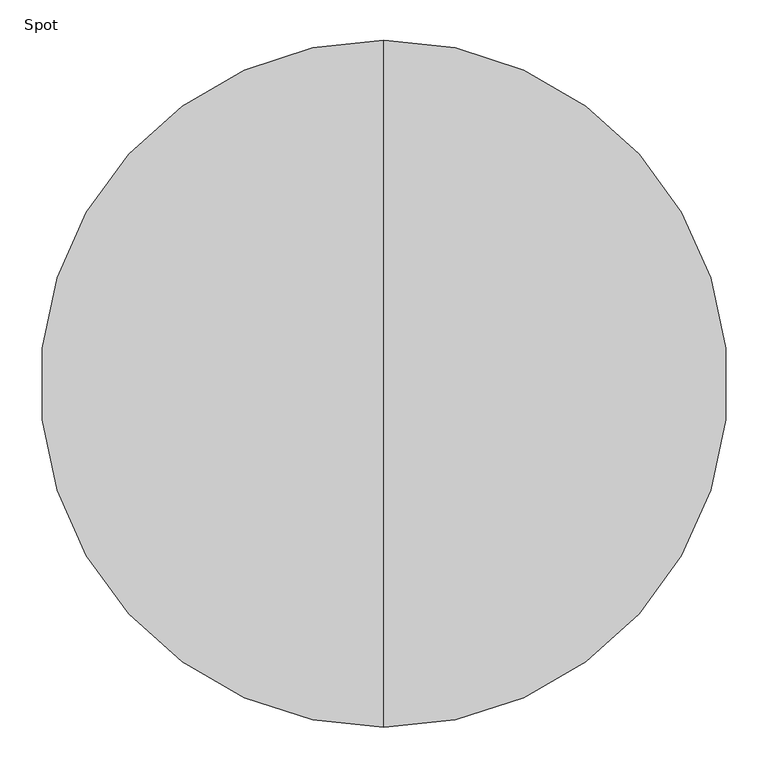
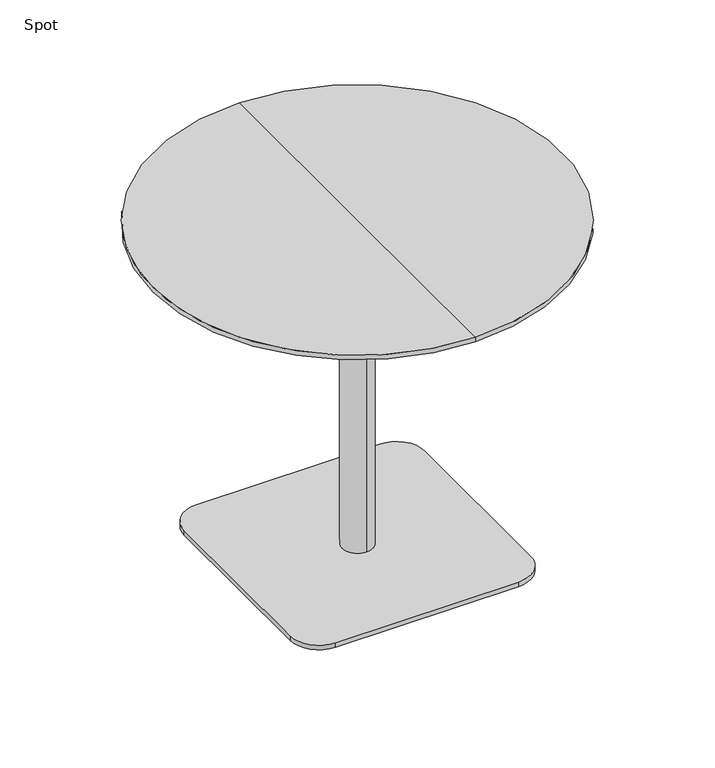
"""IFC4 building model written with IfcOpenShell, lengths in millimetres: furniture geometry, Spot : ø85x72s."""

from ifc_helpers import new_model, si_unit, point, frame, frame_2d, origin, origin_with_axes, place, context, project, spatial, polyline, circle_curve, trimmed, segment, composite_curve, outline, extrude, source, transform, mapped, element, save
from ifc_brep_helpers import plane_surface, cylinder_surface, revolved_surface, advanced_brep


def spot_d553f32d(model_context):
    return source(origin(), model_context, "Body", "SolidModel", [
        advanced_brep(
        [(0.0, -425.0, 720.0), (0.0, 425.0, 720.0), (0.0, 0.0, 720.0), (0.0, 425.0, 710.25), (0.0, -425.0, 710.25), (0.0, 0.0, 698.0), (0.0, -379.2823776, 698.0), (0.0, 379.2823776, 698.0)],
        [
            (0, 1, circle_curve(frame((0.0, 0.0, 720.0), z_axis=(0.0, 0.0, 1.0), x_axis=(0.0, -1.0, 0.0)), 425.0)),
            (1, 2),
            (2, 0),
            (3, 4, circle_curve(frame((0.0, 0.0, 710.25), z_axis=(0.0, 0.0, 1.0), x_axis=(0.0, -1.0, 0.0)), 425.0)),
            (4, 0),
            (0, 1, circle_curve(frame((0.0, 0.0, 720.0), z_axis=(0.0, 0.0, -1.0), x_axis=(0.0, -1.0, 0.0)), 425.0)),
            (1, 3),
            (5, 6),
            (6, 7, circle_curve(frame((0.0, 0.0, 698.0), z_axis=(0.0, 0.0, -1.0), x_axis=(0.0, -1.0, 0.0)), 379.2823776)),
            (7, 5),
            (7, 6, circle_curve(frame((0.0, 0.0, 698.0), z_axis=(0.0, 0.0, -1.0), x_axis=(0.0, -1.0, 0.0)), 379.2823776)),
            (4, 3, circle_curve(frame((0.0, 0.0, 710.25), z_axis=(0.0, 0.0, 1.0), x_axis=(0.0, -1.0, 0.0)), 425.0)),
            (6, 4),
            (3, 7),
        ],
        [
            plane_surface(frame((0.0, 0.0, 720.0), z_axis=(0.0, 0.0, 1.0), x_axis=(0.0, -1.0, 0.0))),
            cylinder_surface(frame((0.0, 0.0, 800.0), z_axis=(0.0, 0.0, -1.0), x_axis=(0.0, -1.0, 0.0)), 425.0),
            plane_surface(frame((0.0, 0.0, 698.0), z_axis=(0.0, 0.0, -1.0), x_axis=(0.0, -1.0, 0.0))),
            revolved_surface(polyline([(0.0, -425.0, 710.25), (0.0, -379.2823776, 698.0)]), (0.0, 0.0, 800.0), (0.0, 0.0, -1.0)),
        ],
        [
            (0, [[1, 2, 3]]),
            (1, [[4, 5, 6, 7]]),
            (2, [[8, 9, 10]]),
            (2, [[-10, 11, -8]]),
            (0, [[-6, -3, -2]]),
            (1, [[12, -7, -1, -5]]),
            (3, [[-9, 13, -4, 14]]),
            (3, [[-11, -14, -12, -13]]),
        ],
    ),
        extrude(outline(composite_curve([segment(trimmed(circle_curve(frame_2d((190.0, 190.0)), 60.0), [point((190.0, 250.0))], [point((250.0, 190.0))], False, "CARTESIAN"), True, "CONTINUOUS"), segment(polyline([(250.0, 190.0), (250.0, -190.0)]), True, "CONTINUOUS"), segment(trimmed(circle_curve(frame_2d((190.0, -190.0)), 60.0), [point((250.0, -190.0))], [point((190.0, -250.0))], False, "CARTESIAN"), True, "CONTINUOUS"), segment(polyline([(190.0, -250.0), (-190.0, -250.0)]), True, "CONTINUOUS"), segment(trimmed(circle_curve(frame_2d((-190.0, -190.0)), 60.0), [point((-190.0, -250.0))], [point((-250.0, -190.0))], False, "CARTESIAN"), True, "CONTINUOUS"), segment(polyline([(-250.0, -190.0), (-250.0, 190.0)]), True, "CONTINUOUS"), segment(trimmed(circle_curve(frame_2d((-190.0, 190.0)), 60.0), [point((-250.0, 190.0))], [point((-190.0, 250.0))], False, "CARTESIAN"), True, "CONTINUOUS"), segment(polyline([(-190.0, 250.0), (190.0, 250.0)]), True, "CONTINUOUS")], self_intersect=False)), origin_with_axes(), (0.0, 0.0, 1.0), 10.0),
        advanced_brep(
        [(0.0, 32.0, 10.0), (0.0, -32.0, 10.0), (0.0, -32.0, 667.406916), (0.0, 32.0, 667.406916), (0.0, 0.0, 10.0), (0.0, 150.0, 698.0), (0.0, -150.0, 698.0), (0.0, 0.0, 698.0), (0.0, 150.0, 686.7213673), (0.0, -150.0, 686.7213673)],
        [
            (0, 1, circle_curve(frame((0.0, 0.0, 10.0), z_axis=(0.0, 0.0, 1.0), x_axis=(0.0, -1.0, 0.0)), 32.0)),
            (1, 2),
            (2, 3, circle_curve(frame((0.0, 0.0, 667.406916), z_axis=(0.0, 0.0, -1.0), x_axis=(0.0, -1.0, 0.0)), 32.0)),
            (3, 0),
            (1, 0, circle_curve(frame((0.0, 0.0, 10.0), z_axis=(0.0, 0.0, 1.0), x_axis=(0.0, -1.0, 0.0)), 32.0)),
            (3, 2, circle_curve(frame((0.0, 0.0, 667.406916), z_axis=(0.0, 0.0, -1.0), x_axis=(0.0, -1.0, 0.0)), 32.0)),
            (4, 1),
            (0, 4),
            (5, 6, circle_curve(frame((0.0, 0.0, 698.0), z_axis=(0.0, 0.0, 1.0), x_axis=(0.0, -1.0, 0.0)), 150.0)),
            (6, 7),
            (7, 5),
            (6, 5, circle_curve(frame((0.0, 0.0, 698.0), z_axis=(0.0, 0.0, 1.0), x_axis=(0.0, -1.0, 0.0)), 150.0)),
            (8, 9, circle_curve(frame((0.0, 0.0, 686.7213673), z_axis=(0.0, 0.0, 1.0), x_axis=(0.0, -1.0, 0.0)), 150.0)),
            (9, 6),
            (5, 8),
            (9, 8, circle_curve(frame((0.0, 0.0, 686.7213673), z_axis=(0.0, 0.0, 1.0), x_axis=(0.0, -1.0, 0.0)), 150.0)),
            (2, 9),
            (8, 3),
        ],
        [
            cylinder_surface(frame((0.0, 0.0, 1060.0), z_axis=(0.0, 0.0, -1.0), x_axis=(0.0, -1.0, 0.0)), 32.0),
            plane_surface(frame((0.0, 0.0, 10.0), z_axis=(0.0, 0.0, -1.0), x_axis=(0.0, -1.0, 0.0))),
            plane_surface(frame((0.0, 0.0, 698.0), z_axis=(0.0, 0.0, 1.0), x_axis=(0.0, -1.0, 0.0))),
            cylinder_surface(frame((0.0, 0.0, 1060.0), z_axis=(0.0, 0.0, -1.0), x_axis=(0.0, -1.0, 0.0)), 150.0),
            revolved_surface(polyline([(0.0, -150.0, 686.7213673), (0.0, -32.0, 667.406916)]), (0.0, 0.0, 1060.0), (0.0, 0.0, -1.0)),
        ],
        [
            (0, [[1, 2, 3, 4]]),
            (0, [[5, -4, 6, -2]]),
            (1, [[7, -1, 8]]),
            (1, [[-8, -5, -7]]),
            (2, [[9, 10, 11]]),
            (2, [[12, -11, -10]]),
            (3, [[13, 14, -9, 15]]),
            (3, [[16, -15, -12, -14]]),
            (4, [[-3, 17, -13, 18]]),
            (4, [[-6, -18, -16, -17]]),
        ],
    ),
        extrude(outline(polyline([(0.0, 0.0), (-20.0, 0.0), (-20.0, 20.0), (0.0, 20.0), (0.0, 0.0)])), origin_with_axes(), (0.0, 0.0, 1.0), 10.0),
    ])


if __name__ == "__main__":
    model = new_model("IFC4")
    model_context = context("Model", 3, world=origin())
    ifc_project = project(units=[si_unit("LENGTHUNIT", "METRE", prefix="MILLI")], contexts=[model_context])
    site = spatial("IfcSite", under=ifc_project)
    building = spatial("IfcBuilding", under=site)
    placement = place(None, origin())
    spot_shape = spot_d553f32d(model_context)
    element("IfcFurniture", 1, ObjectType="Spot : ø85x72s", at=placement, inside=building, context=model_context, shape_type="MappedRepresentation", body=[
        mapped(spot_shape, transform((0.0, 0.0, 0.0), x_axis=(1.0, 0.0, 0.0), y_axis=(0.0, 1.0, 0.0), z_axis=(0.0, 0.0, 1.0))),
    ])
    save(model, "model.ifc")
